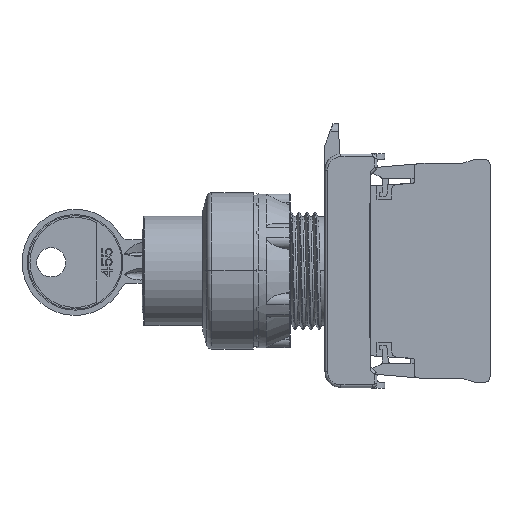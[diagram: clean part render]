
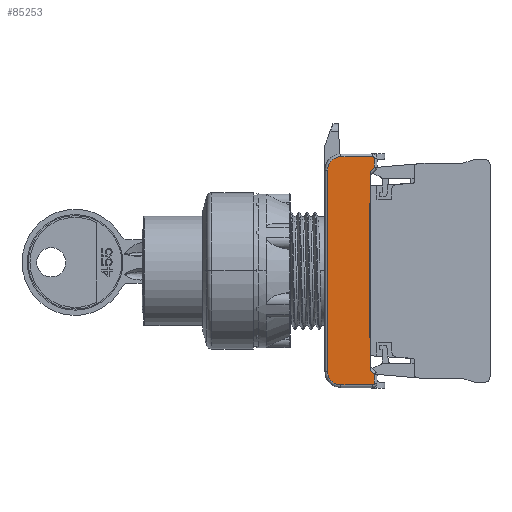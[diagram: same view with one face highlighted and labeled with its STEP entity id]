
A CAD part, left-side view. The second image highlights one B-rep face of the part: STEP entity #85253.
In plain terms, the highlighted planar face has unit normal (-1, 0, 0) as drawn and (1, 0, 0) by its records, which use the part's own axes.
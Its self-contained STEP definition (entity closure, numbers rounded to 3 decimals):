
#775 = LINE ( 'NONE', #79215, #98262 ) ;
#1011 = DIRECTION ( 'NONE',  ( 0., 1., 0. ) ) ;
#1034 = LINE ( 'NONE', #25692, #85996 ) ;
#1684 = ORIENTED_EDGE ( 'NONE', *, *, #58480, .T. ) ;
#3361 = AXIS2_PLACEMENT_3D ( 'NONE', #15152, #37773, #31226 ) ;
#4161 = CARTESIAN_POINT ( 'NONE',  ( 15.05, -18.707, -22.05 ) ) ;
#4946 = CIRCLE ( 'NONE', #3361, 0.5 ) ;
#6106 = VERTEX_POINT ( 'NONE', #94136 ) ;
#8598 = CARTESIAN_POINT ( 'NONE',  ( 15.05, 21.2, -22.85 ) ) ;
#9582 = EDGE_CURVE ( 'NONE', #94890, #6106, #15762, .T. ) ;
#11925 = CARTESIAN_POINT ( 'NONE',  ( 15.05, 12.7, -22.05 ) ) ;
#11929 = CARTESIAN_POINT ( 'NONE',  ( 15.05, 19.507, -22.85 ) ) ;
#11938 = DIRECTION ( 'NONE',  ( 0., 0.707, -0.707 ) ) ;
#12250 = CARTESIAN_POINT ( 'NONE',  ( 15.05, -22., -22.05 ) ) ;
#12910 = DIRECTION ( 'NONE',  ( 0., 1., 0. ) ) ;
#13089 = VERTEX_POINT ( 'NONE', #91731 ) ;
#13476 = AXIS2_PLACEMENT_3D ( 'NONE', #47715, #55242, #16567 ) ;
#14581 = VECTOR ( 'NONE', #41116, 1000. ) ;
#15152 = CARTESIAN_POINT ( 'NONE',  ( 15.05, -12.3, -22.35 ) ) ;
#15762 = CIRCLE ( 'NONE', #44673, 2.5 ) ;
#15877 = EDGE_CURVE ( 'NONE', #60914, #68982, #58380, .T. ) ;
#16567 = DIRECTION ( 'NONE',  ( 0., -1., 0. ) ) ;
#18141 = LINE ( 'NONE', #24669, #86291 ) ;
#18740 = EDGE_CURVE ( 'NONE', #51132, #94890, #53381, .T. ) ;
#18853 = DIRECTION ( 'NONE',  ( 0., 0., -1. ) ) ;
#19210 = EDGE_CURVE ( 'NONE', #42169, #51132, #37296, .T. ) ;
#19797 = FACE_OUTER_BOUND ( 'NONE', #93299, .T. ) ;
#20199 = DIRECTION ( 'NONE',  ( 1., 0., 0. ) ) ;
#20427 = DIRECTION ( 'NONE',  ( 1., 0., 0. ) ) ;
#21717 = EDGE_CURVE ( 'NONE', #87919, #67728, #30358, .T. ) ;
#22304 = CARTESIAN_POINT ( 'NONE',  ( 15.05, 12.3, -21.85 ) ) ;
#22465 = DIRECTION ( 'NONE',  ( 1., 0., 0. ) ) ;
#22982 = EDGE_CURVE ( 'NONE', #6106, #26993, #1034, .T. ) ;
#24011 = ORIENTED_EDGE ( 'NONE', *, *, #97714, .T. ) ;
#24669 = CARTESIAN_POINT ( 'NONE',  ( 15.05, -21.2, -22.85 ) ) ;
#24996 = CARTESIAN_POINT ( 'NONE',  ( 15.05, 21.5, -22.55 ) ) ;
#25397 = LINE ( 'NONE', #57046, #48122 ) ;
#25692 = CARTESIAN_POINT ( 'NONE',  ( 15.05, 19., -14.05 ) ) ;
#26263 = EDGE_CURVE ( 'NONE', #82716, #51317, #73040, .T. ) ;
#26545 = CARTESIAN_POINT ( 'NONE',  ( 15.05, 18.707, -22.05 ) ) ;
#26968 = AXIS2_PLACEMENT_3D ( 'NONE', #40411, #71052, #32866 ) ;
#26993 = VERTEX_POINT ( 'NONE', #38686 ) ;
#29760 = ORIENTED_EDGE ( 'NONE', *, *, #21717, .F. ) ;
#30358 = LINE ( 'NONE', #22304, #66536 ) ;
#30901 = CARTESIAN_POINT ( 'NONE',  ( 15.05, -21.5, -22.55 ) ) ;
#30951 = EDGE_CURVE ( 'NONE', #70739, #13089, #94883, .T. ) ;
#30969 = VECTOR ( 'NONE', #11938, 1000. ) ;
#31226 = DIRECTION ( 'NONE',  ( 0., -0.8, 0.6 ) ) ;
#32472 = DIRECTION ( 'NONE',  ( 0., 0.707, 0.707 ) ) ;
#32745 = DIRECTION ( 'NONE',  ( 0., -1., 0. ) ) ;
#32866 = DIRECTION ( 'NONE',  ( 0., 0., 1. ) ) ;
#34076 = AXIS2_PLACEMENT_3D ( 'NONE', #46600, #22465, #94805 ) ;
#35020 = CARTESIAN_POINT ( 'NONE',  ( 15.05, 12.7, -22.05 ) ) ;
#35518 = CARTESIAN_POINT ( 'NONE',  ( 15.05, -12.7, -22.05 ) ) ;
#35810 = EDGE_CURVE ( 'NONE', #68982, #81395, #18141, .T. ) ;
#37296 = CIRCLE ( 'NONE', #34076, 0.3 ) ;
#37773 = DIRECTION ( 'NONE',  ( -1., 0., 0. ) ) ;
#38422 = EDGE_CURVE ( 'NONE', #80514, #60914, #25397, .T. ) ;
#38686 = CARTESIAN_POINT ( 'NONE',  ( 15.05, -19., -14.05 ) ) ;
#39060 = ORIENTED_EDGE ( 'NONE', *, *, #22982, .T. ) ;
#40058 = CARTESIAN_POINT ( 'NONE',  ( 15.05, -21.2, -22.85 ) ) ;
#40411 = CARTESIAN_POINT ( 'NONE',  ( 15.05, 12.3, -22.35 ) ) ;
#41116 = DIRECTION ( 'NONE',  ( 0., 1., 0. ) ) ;
#41275 = AXIS2_PLACEMENT_3D ( 'NONE', #12250, #42925, #49962 ) ;
#41415 = DIRECTION ( 'NONE',  ( 0., 1., 0. ) ) ;
#42169 = VERTEX_POINT ( 'NONE', #8598 ) ;
#42925 = DIRECTION ( 'NONE',  ( 1., 0., 0. ) ) ;
#44058 = CARTESIAN_POINT ( 'NONE',  ( 15.05, 19., -16.55 ) ) ;
#44673 = AXIS2_PLACEMENT_3D ( 'NONE', #44058, #20427, #74204 ) ;
#46600 = CARTESIAN_POINT ( 'NONE',  ( 15.05, 21.2, -22.55 ) ) ;
#47676 = ORIENTED_EDGE ( 'NONE', *, *, #26263, .T. ) ;
#47715 = CARTESIAN_POINT ( 'NONE',  ( 15.05, -21.2, -22.55 ) ) ;
#48122 = VECTOR ( 'NONE', #18853, 1000. ) ;
#49962 = DIRECTION ( 'NONE',  ( 0., 1., 0. ) ) ;
#50952 = PLANE ( 'NONE',  #41275 ) ;
#51132 = VERTEX_POINT ( 'NONE', #24996 ) ;
#51317 = VERTEX_POINT ( 'NONE', #35518 ) ;
#51675 = AXIS2_PLACEMENT_3D ( 'NONE', #89057, #20199, #88560 ) ;
#53288 = EDGE_CURVE ( 'NONE', #26993, #80514, #80603, .T. ) ;
#53381 = LINE ( 'NONE', #59421, #88818 ) ;
#53585 = ORIENTED_EDGE ( 'NONE', *, *, #30951, .T. ) ;
#55130 = EDGE_CURVE ( 'NONE', #87919, #93626, #73516, .T. ) ;
#55242 = DIRECTION ( 'NONE',  ( 1., 0., 0. ) ) ;
#55403 = ORIENTED_EDGE ( 'NONE', *, *, #38422, .T. ) ;
#57046 = CARTESIAN_POINT ( 'NONE',  ( 15.05, -21.5, -16.55 ) ) ;
#58380 = CIRCLE ( 'NONE', #13476, 0.3 ) ;
#58480 = EDGE_CURVE ( 'NONE', #81395, #82716, #775, .T. ) ;
#59421 = CARTESIAN_POINT ( 'NONE',  ( 15.05, 21.5, -22.55 ) ) ;
#60914 = VERTEX_POINT ( 'NONE', #30901 ) ;
#64058 = ORIENTED_EDGE ( 'NONE', *, *, #9582, .T. ) ;
#66536 = VECTOR ( 'NONE', #97713, 1000. ) ;
#67728 = VERTEX_POINT ( 'NONE', #73934 ) ;
#68982 = VERTEX_POINT ( 'NONE', #40058 ) ;
#69667 = CARTESIAN_POINT ( 'NONE',  ( 15.05, -18.707, -22.05 ) ) ;
#70156 = ORIENTED_EDGE ( 'NONE', *, *, #15877, .T. ) ;
#70492 = CARTESIAN_POINT ( 'NONE',  ( 15.05, 21.5, -16.55 ) ) ;
#70739 = VERTEX_POINT ( 'NONE', #82104 ) ;
#71052 = DIRECTION ( 'NONE',  ( -1., 0., 0. ) ) ;
#72281 = VECTOR ( 'NONE', #12910, 1000. ) ;
#73040 = LINE ( 'NONE', #4161, #94231 ) ;
#73516 = CIRCLE ( 'NONE', #26968, 0.5 ) ;
#73934 = CARTESIAN_POINT ( 'NONE',  ( 15.05, -12.3, -21.85 ) ) ;
#74204 = DIRECTION ( 'NONE',  ( 0., 1., 0. ) ) ;
#74806 = ORIENTED_EDGE ( 'NONE', *, *, #55130, .T. ) ;
#78670 = CARTESIAN_POINT ( 'NONE',  ( 15.05, -21.5, -16.55 ) ) ;
#78827 = ORIENTED_EDGE ( 'NONE', *, *, #53288, .T. ) ;
#79215 = CARTESIAN_POINT ( 'NONE',  ( 15.05, -19.507, -22.85 ) ) ;
#80514 = VERTEX_POINT ( 'NONE', #78670 ) ;
#80603 = CIRCLE ( 'NONE', #51675, 2.5 ) ;
#80803 = LINE ( 'NONE', #11929, #14581 ) ;
#81395 = VERTEX_POINT ( 'NONE', #92996 ) ;
#81769 = LINE ( 'NONE', #11925, #72281 ) ;
#82104 = CARTESIAN_POINT ( 'NONE',  ( 15.05, 18.707, -22.05 ) ) ;
#82716 = VERTEX_POINT ( 'NONE', #69667 ) ;
#84047 = DIRECTION ( 'NONE',  ( 0., 0., 1. ) ) ;
#85253 = ADVANCED_FACE ( 'NONE', ( #19797 ), #50952, .T. ) ;
#85996 = VECTOR ( 'NONE', #32745, 1000. ) ;
#86291 = VECTOR ( 'NONE', #1011, 1000. ) ;
#87919 = VERTEX_POINT ( 'NONE', #95867 ) ;
#88560 = DIRECTION ( 'NONE',  ( 0., 0., 1. ) ) ;
#88818 = VECTOR ( 'NONE', #84047, 1000. ) ;
#89057 = CARTESIAN_POINT ( 'NONE',  ( 15.05, -19., -16.55 ) ) ;
#89074 = ORIENTED_EDGE ( 'NONE', *, *, #19210, .T. ) ;
#90684 = ORIENTED_EDGE ( 'NONE', *, *, #35810, .T. ) ;
#91731 = CARTESIAN_POINT ( 'NONE',  ( 15.05, 19.507, -22.85 ) ) ;
#92267 = ORIENTED_EDGE ( 'NONE', *, *, #18740, .T. ) ;
#92996 = CARTESIAN_POINT ( 'NONE',  ( 15.05, -19.507, -22.85 ) ) ;
#93299 = EDGE_LOOP ( 'NONE', ( #53585, #24011, #89074, #92267, #64058, #39060, #78827, #55403, #70156, #90684, #1684, #47676, #93875, #29760, #74806, #97819 ) ) ;
#93626 = VERTEX_POINT ( 'NONE', #35020 ) ;
#93875 = ORIENTED_EDGE ( 'NONE', *, *, #98086, .T. ) ;
#94136 = CARTESIAN_POINT ( 'NONE',  ( 15.05, 19., -14.05 ) ) ;
#94231 = VECTOR ( 'NONE', #41415, 1000. ) ;
#94805 = DIRECTION ( 'NONE',  ( 0., 0., -1. ) ) ;
#94883 = LINE ( 'NONE', #26545, #30969 ) ;
#94890 = VERTEX_POINT ( 'NONE', #70492 ) ;
#95408 = EDGE_CURVE ( 'NONE', #93626, #70739, #81769, .T. ) ;
#95867 = CARTESIAN_POINT ( 'NONE',  ( 15.05, 12.3, -21.85 ) ) ;
#97714 = EDGE_CURVE ( 'NONE', #13089, #42169, #80803, .T. ) ;
#97713 = DIRECTION ( 'NONE',  ( 0., -1., 0. ) ) ;
#97819 = ORIENTED_EDGE ( 'NONE', *, *, #95408, .T. ) ;
#98086 = EDGE_CURVE ( 'NONE', #51317, #67728, #4946, .T. ) ;
#98262 = VECTOR ( 'NONE', #32472, 1000. ) ;
